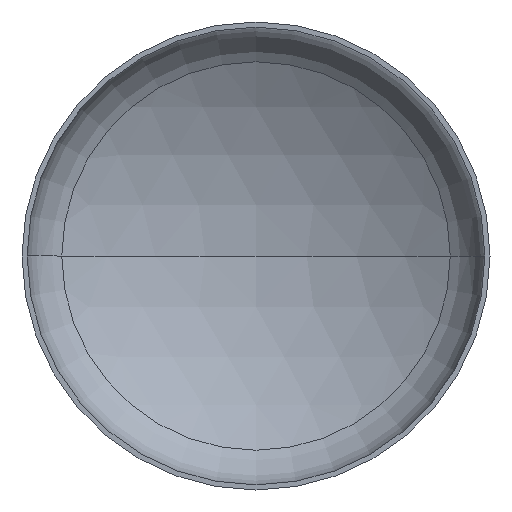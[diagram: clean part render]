
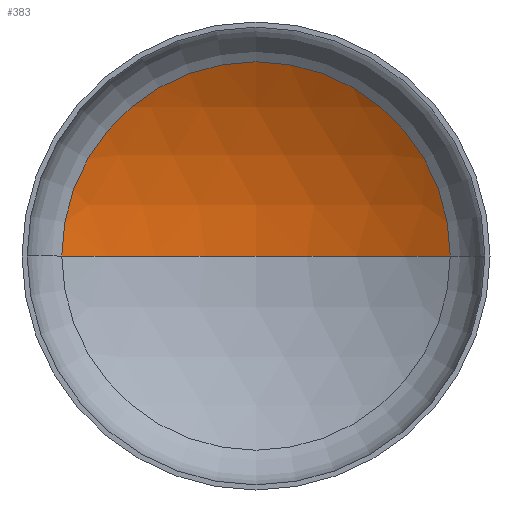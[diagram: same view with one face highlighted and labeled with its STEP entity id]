
A CAD part, front view. The second image highlights one B-rep face of the part: STEP entity #383.
In plain terms, the highlighted spherical face has radius 3200 mm.
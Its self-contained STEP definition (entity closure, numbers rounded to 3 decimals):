
#5 = AXIS2_PLACEMENT_3D ( 'NONE', #274, #385, #74 ) ;
#9 = AXIS2_PLACEMENT_3D ( 'NONE', #338, #169, #364 ) ;
#20 = EDGE_LOOP ( 'NONE', ( #142, #116, #148 ) ) ;
#38 = AXIS2_PLACEMENT_3D ( 'NONE', #276, #109, #305 ) ;
#68 = CIRCLE ( 'NONE', #9, 3200. ) ;
#74 = DIRECTION ( 'NONE',  ( 1., 0., 0. ) ) ;
#84 = DIRECTION ( 'NONE',  ( -1., 0., 0. ) ) ;
#107 = CARTESIAN_POINT ( 'NONE',  ( -1660.039, 665.775, 0. ) ) ;
#109 = DIRECTION ( 'NONE',  ( 0., -1., 0. ) ) ;
#111 = EDGE_CURVE ( 'NONE', #229, #275, #266, .T. ) ;
#116 = ORIENTED_EDGE ( 'NONE', *, *, #335, .T. ) ;
#124 = VERTEX_POINT ( 'NONE', #388 ) ;
#142 = ORIENTED_EDGE ( 'NONE', *, *, #341, .F. ) ;
#148 = ORIENTED_EDGE ( 'NONE', *, *, #111, .T. ) ;
#169 = DIRECTION ( 'NONE',  ( 0., 0., -1. ) ) ;
#216 = FACE_OUTER_BOUND ( 'NONE', #20, .T. ) ;
#229 = VERTEX_POINT ( 'NONE', #406 ) ;
#244 = CARTESIAN_POINT ( 'NONE',  ( 0., -2069.965, 0. ) ) ;
#266 = CIRCLE ( 'NONE', #38, 1660.039 ) ;
#274 = CARTESIAN_POINT ( 'NONE',  ( 0., -2069.965, 0. ) ) ;
#275 = VERTEX_POINT ( 'NONE', #107 ) ;
#276 = CARTESIAN_POINT ( 'NONE',  ( 0., 665.775, 0. ) ) ;
#283 = SPHERICAL_SURFACE ( 'NONE', #393, 3200. ) ;
#305 = DIRECTION ( 'NONE',  ( 1., 0., 0. ) ) ;
#335 = EDGE_CURVE ( 'NONE', #124, #229, #68, .T. ) ;
#338 = CARTESIAN_POINT ( 'NONE',  ( 0., -2069.965, 0. ) ) ;
#341 = EDGE_CURVE ( 'NONE', #124, #275, #373, .T. ) ;
#342 = DIRECTION ( 'NONE',  ( 0., 0., -1. ) ) ;
#364 = DIRECTION ( 'NONE',  ( -1., 0., 0. ) ) ;
#373 = CIRCLE ( 'NONE', #5, 3200. ) ;
#383 = ADVANCED_FACE ( 'NONE', ( #216 ), #283, .F. ) ;
#385 = DIRECTION ( 'NONE',  ( 0., 0., 1. ) ) ;
#388 = CARTESIAN_POINT ( 'NONE',  ( 0., 1130.035, 0. ) ) ;
#393 = AXIS2_PLACEMENT_3D ( 'NONE', #244, #342, #84 ) ;
#406 = CARTESIAN_POINT ( 'NONE',  ( 1660.039, 665.775, 0. ) ) ;
